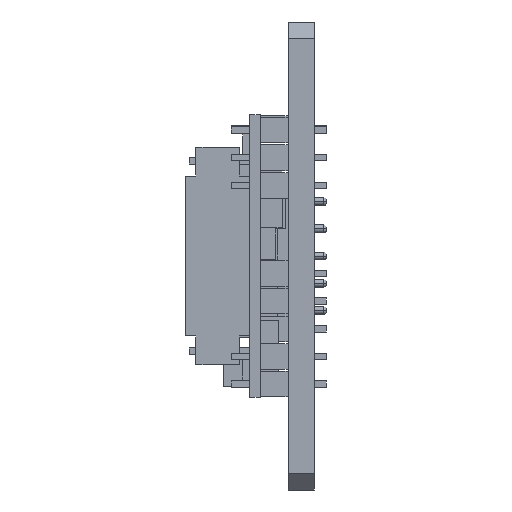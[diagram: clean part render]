
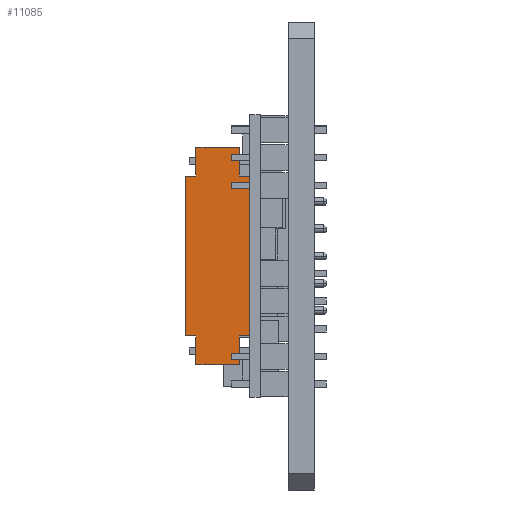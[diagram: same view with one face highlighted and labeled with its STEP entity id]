
A CAD part, left-side view. The second image highlights one B-rep face of the part: STEP entity #11085.
In plain terms, the highlighted planar face has unit normal (-1, 0, 0).
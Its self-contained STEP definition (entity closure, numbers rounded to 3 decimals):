
#950 = AXIS2_PLACEMENT_3D ( 'NONE', #1439, #1451, #1452 ) ;
#1439 = CARTESIAN_POINT ( 'NONE',  ( -19.197, 11.79, -7.35 ) ) ;
#1448 = FACE_OUTER_BOUND ( 'NONE', #5752, .T. ) ;
#1449 = PLANE ( 'NONE',  #950 ) ;
#1451 = DIRECTION ( 'NONE',  ( 1., 0., 0. ) ) ;
#1452 = DIRECTION ( 'NONE',  ( 0., 0., -1. ) ) ;
#2108 = ORIENTED_EDGE ( 'NONE', *, *, #12422, .F. ) ;
#2648 = ORIENTED_EDGE ( 'NONE', *, *, #11671, .T. ) ;
#3050 = CARTESIAN_POINT ( 'NONE',  ( -19.197, 10.865, -10. ) ) ;
#3051 = DIRECTION ( 'NONE',  ( 0., 0., 1. ) ) ;
#3301 = LINE ( 'NONE', #3311, #13900 ) ;
#3311 = CARTESIAN_POINT ( 'NONE',  ( -19.197, 10.865, -10. ) ) ;
#3312 = DIRECTION ( 'NONE',  ( 0., 0., 1. ) ) ;
#3326 = LINE ( 'NONE', #3327, #13920 ) ;
#3327 = CARTESIAN_POINT ( 'NONE',  ( -19.197, 10.865, 10. ) ) ;
#3328 = DIRECTION ( 'NONE',  ( 0., -1., 0. ) ) ;
#3401 = LINE ( 'NONE', #3402, #13980 ) ;
#3402 = CARTESIAN_POINT ( 'NONE',  ( -19.197, 5.94, -7.35 ) ) ;
#3403 = DIRECTION ( 'NONE',  ( 0., 0., 1. ) ) ;
#5448 = ORIENTED_EDGE ( 'NONE', *, *, #11692, .F. ) ;
#5489 = ORIENTED_EDGE ( 'NONE', *, *, #12417, .F. ) ;
#5494 = ORIENTED_EDGE ( 'NONE', *, *, #12261, .F. ) ;
#5495 = ORIENTED_EDGE ( 'NONE', *, *, #11713, .T. ) ;
#5502 = ORIENTED_EDGE ( 'NONE', *, *, #12447, .T. ) ;
#5503 = ORIENTED_EDGE ( 'NONE', *, *, #12286, .T. ) ;
#5516 = ORIENTED_EDGE ( 'NONE', *, *, #12212, .T. ) ;
#5752 = EDGE_LOOP ( 'NONE', ( #5494, #5495, #2108, #6010, #6026, #5448, #2648, #5489, #5503, #5516, #5965, #5502 ) ) ;
#5965 = ORIENTED_EDGE ( 'NONE', *, *, #12222, .T. ) ;
#6010 = ORIENTED_EDGE ( 'NONE', *, *, #12330, .F. ) ;
#6026 = ORIENTED_EDGE ( 'NONE', *, *, #11693, .F. ) ;
#6135 = VECTOR ( 'NONE', #17244, 1000. ) ;
#6150 = VECTOR ( 'NONE', #17693, 1000. ) ;
#6192 = VECTOR ( 'NONE', #17310, 1000. ) ;
#6200 = VECTOR ( 'NONE', #17306, 1000. ) ;
#6290 = VECTOR ( 'NONE', #17766, 1000. ) ;
#6374 = VECTOR ( 'NONE', #17368, 1000. ) ;
#6393 = VECTOR ( 'NONE', #17576, 1000. ) ;
#6422 = VECTOR ( 'NONE', #17545, 1000. ) ;
#6428 = VECTOR ( 'NONE', #3051, 1000. ) ;
#11085 = ADVANCED_FACE ( 'NONE', ( #1448 ), #1449, .F. ) ;
#11671 = EDGE_CURVE ( 'NONE', #14765, #14158, #17230, .T. ) ;
#11692 = EDGE_CURVE ( 'NONE', #14765, #14078, #17297, .T. ) ;
#11693 = EDGE_CURVE ( 'NONE', #14078, #14268, #17307, .T. ) ;
#11713 = EDGE_CURVE ( 'NONE', #14500, #14289, #17364, .T. ) ;
#12212 = EDGE_CURVE ( 'NONE', #14548, #14136, #17539, .T. ) ;
#12222 = EDGE_CURVE ( 'NONE', #14136, #14616, #17572, .T. ) ;
#12261 = EDGE_CURVE ( 'NONE', #14500, #14422, #17686, .T. ) ;
#12286 = EDGE_CURVE ( 'NONE', #14539, #14548, #17764, .T. ) ;
#12330 = EDGE_CURVE ( 'NONE', #14268, #14435, #17885, .T. ) ;
#12417 = EDGE_CURVE ( 'NONE', #14539, #14158, #3301, .T. ) ;
#12422 = EDGE_CURVE ( 'NONE', #14435, #14289, #3326, .T. ) ;
#12447 = EDGE_CURVE ( 'NONE', #14616, #14422, #3401, .T. ) ;
#13900 = VECTOR ( 'NONE', #3312, 1000. ) ;
#13920 = VECTOR ( 'NONE', #3328, 1000. ) ;
#13980 = VECTOR ( 'NONE', #3403, 1000. ) ;
#14078 = VERTEX_POINT ( 'NONE', #18037 ) ;
#14136 = VERTEX_POINT ( 'NONE', #18055 ) ;
#14158 = VERTEX_POINT ( 'NONE', #18067 ) ;
#14268 = VERTEX_POINT ( 'NONE', #18102 ) ;
#14289 = VERTEX_POINT ( 'NONE', #18112 ) ;
#14422 = VERTEX_POINT ( 'NONE', #18172 ) ;
#14435 = VERTEX_POINT ( 'NONE', #18177 ) ;
#14500 = VERTEX_POINT ( 'NONE', #18230 ) ;
#14539 = VERTEX_POINT ( 'NONE', #18258 ) ;
#14548 = VERTEX_POINT ( 'NONE', #18256 ) ;
#14616 = VERTEX_POINT ( 'NONE', #18308 ) ;
#14765 = VERTEX_POINT ( 'NONE', #18410 ) ;
#17230 = LINE ( 'NONE', #17242, #6135 ) ;
#17242 = CARTESIAN_POINT ( 'NONE',  ( -19.197, 11.79, -7.35 ) ) ;
#17244 = DIRECTION ( 'NONE',  ( 0., -1., 0. ) ) ;
#17297 = LINE ( 'NONE', #17305, #6200 ) ;
#17305 = CARTESIAN_POINT ( 'NONE',  ( -19.197, 11.79, -7.35 ) ) ;
#17306 = DIRECTION ( 'NONE',  ( 0., 0., 1. ) ) ;
#17307 = LINE ( 'NONE', #17309, #6192 ) ;
#17309 = CARTESIAN_POINT ( 'NONE',  ( -19.197, 11.79, 7.35 ) ) ;
#17310 = DIRECTION ( 'NONE',  ( 0., -1., 0. ) ) ;
#17361 = CARTESIAN_POINT ( 'NONE',  ( -19.197, 6.865, -10. ) ) ;
#17364 = LINE ( 'NONE', #17361, #6374 ) ;
#17368 = DIRECTION ( 'NONE',  ( 0., 0., 1. ) ) ;
#17534 = CARTESIAN_POINT ( 'NONE',  ( -19.197, 6.865, -10. ) ) ;
#17539 = LINE ( 'NONE', #17534, #6422 ) ;
#17545 = DIRECTION ( 'NONE',  ( 0., 0., 1. ) ) ;
#17568 = CARTESIAN_POINT ( 'NONE',  ( -19.197, 11.79, -7.35 ) ) ;
#17572 = LINE ( 'NONE', #17568, #6393 ) ;
#17576 = DIRECTION ( 'NONE',  ( 0., -1., 0. ) ) ;
#17682 = CARTESIAN_POINT ( 'NONE',  ( -19.197, 11.79, 7.35 ) ) ;
#17686 = LINE ( 'NONE', #17682, #6150 ) ;
#17693 = DIRECTION ( 'NONE',  ( 0., -1., 0. ) ) ;
#17764 = LINE ( 'NONE', #17765, #6290 ) ;
#17765 = CARTESIAN_POINT ( 'NONE',  ( -19.197, 10.865, -10. ) ) ;
#17766 = DIRECTION ( 'NONE',  ( 0., -1., 0. ) ) ;
#17885 = LINE ( 'NONE', #3050, #6428 ) ;
#18037 = CARTESIAN_POINT ( 'NONE',  ( -19.197, 11.79, 7.35 ) ) ;
#18055 = CARTESIAN_POINT ( 'NONE',  ( -19.197, 6.865, -7.35 ) ) ;
#18067 = CARTESIAN_POINT ( 'NONE',  ( -19.197, 10.865, -7.35 ) ) ;
#18102 = CARTESIAN_POINT ( 'NONE',  ( -19.197, 10.865, 7.35 ) ) ;
#18112 = CARTESIAN_POINT ( 'NONE',  ( -19.197, 6.865, 10. ) ) ;
#18172 = CARTESIAN_POINT ( 'NONE',  ( -19.197, 5.94, 7.35 ) ) ;
#18177 = CARTESIAN_POINT ( 'NONE',  ( -19.197, 10.865, 10. ) ) ;
#18230 = CARTESIAN_POINT ( 'NONE',  ( -19.197, 6.865, 7.35 ) ) ;
#18256 = CARTESIAN_POINT ( 'NONE',  ( -19.197, 6.865, -10. ) ) ;
#18258 = CARTESIAN_POINT ( 'NONE',  ( -19.197, 10.865, -10. ) ) ;
#18308 = CARTESIAN_POINT ( 'NONE',  ( -19.197, 5.94, -7.35 ) ) ;
#18410 = CARTESIAN_POINT ( 'NONE',  ( -19.197, 11.79, -7.35 ) ) ;
